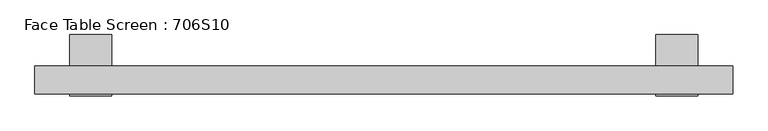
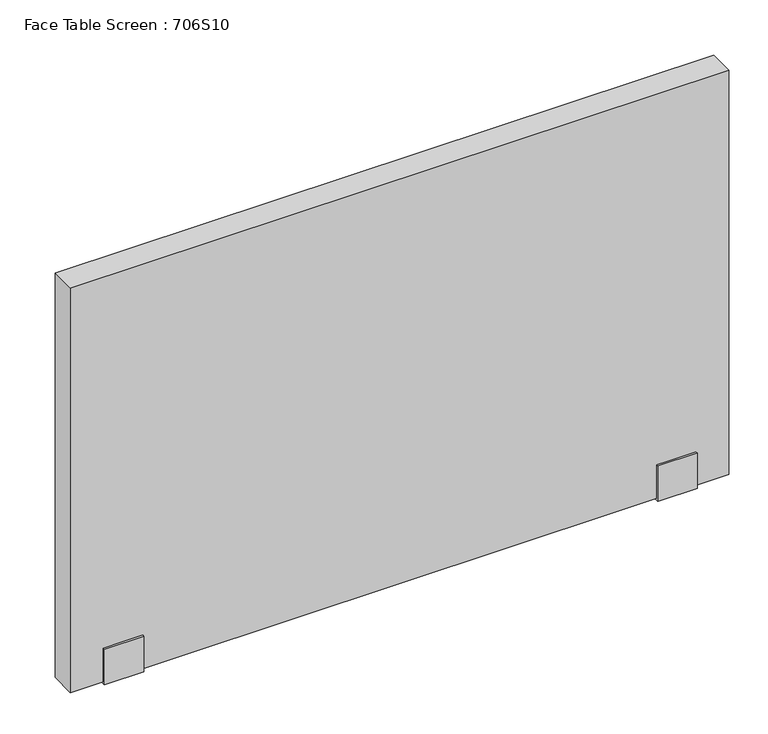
"""IFC4 building model written with IfcOpenShell, lengths in millimetres: furniture geometry, Face Table Screen : 706S10."""

from ifc_helpers import new_model, si_unit, frame, origin, place, context, project, spatial, polyline, outline, extrude, source, transform, mapped, element, save


def face_table_screen_706s10_65a35566(model_context):
    return source(origin(), model_context, "Body", "SweptSolid", [
        extrude(outline(polyline([(-22.9999947, -256.0), (-22.9999997, -199.0433898), (-20.0, -199.0433898), (-20.0, -253.0), (20.0, -253.0), (20.0, -22.0), (65.0, -22.0), (65.0, -25.0433898), (23.0000062, -25.0433898), (22.9999947, -256.0), (-22.9999947, -256.0)])), frame((390.0, 0.0, 0.0), z_axis=(1.0, 0.0, 0.0), x_axis=(0.0, 1.0, 0.0)), (0.0, 0.0, 1.0), 60.0),
        extrude(outline(polyline([(-22.9999947, -256.0), (-22.9999997, -199.0433898), (-20.0, -199.0433898), (-20.0, -253.0), (20.0, -253.0), (20.0, -22.0), (65.0, -22.0), (65.0, -25.0433898), (23.0000062, -25.0433898), (22.9999947, -256.0), (-22.9999947, -256.0)])), frame((-450.0, 0.0, 0.0), z_axis=(1.0, 0.0, 0.0), x_axis=(0.0, 1.0, 0.0)), (0.0, 0.0, 1.0), 60.0),
        extrude(outline(polyline([(500.0, -20.0), (-500.0, -20.0), (-500.0, 20.0), (500.0, 20.0), (500.0, -20.0)])), frame((0.0, 0.0, -253.0), z_axis=(0.0, 0.0, 1.0), x_axis=(1.0, 0.0, 0.0)), (0.0, 0.0, 1.0), 650.0),
    ])


if __name__ == "__main__":
    model = new_model("IFC4")
    model_context = context("Model", 3, world=origin())
    ifc_project = project(units=[si_unit("LENGTHUNIT", "METRE", prefix="MILLI")], contexts=[model_context])
    site = spatial("IfcSite", under=ifc_project)
    building = spatial("IfcBuilding", under=site)
    placement = place(None, origin())
    face_table_screen_706s10_shape = face_table_screen_706s10_65a35566(model_context)
    element("IfcFurniture", 1, ObjectType="Face Table Screen : 706S10", at=placement, inside=building, context=model_context, shape_type="MappedRepresentation", body=[
        mapped(face_table_screen_706s10_shape, transform((0.0, 0.0, 0.0), x_axis=(1.0, 0.0, 0.0), y_axis=(0.0, 1.0, 0.0), z_axis=(0.0, 0.0, 1.0))),
    ])
    save(model, "model.ifc")
